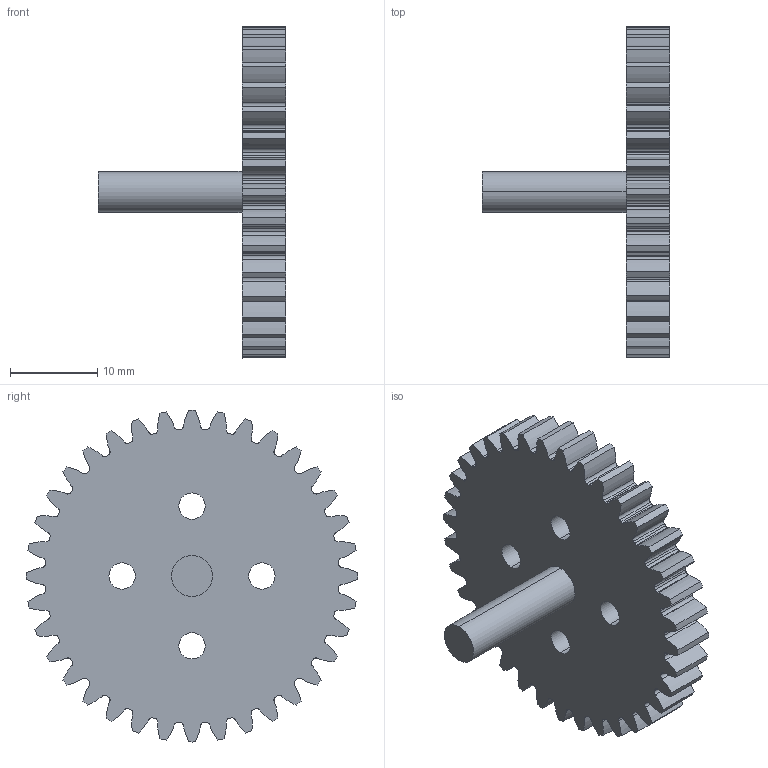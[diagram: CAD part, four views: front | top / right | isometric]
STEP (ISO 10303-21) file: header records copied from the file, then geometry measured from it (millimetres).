
FILE_DESCRIPTION (( 'STEP AP214' ), '1' );
FILE_NAME ('GEAR_36T.STEP', '2020-08-29T12:51:31', ( '' ), ( '' ), 'SwSTEP 2.0', 'SolidWorks 2020', '' );
FILE_SCHEMA (( 'AUTOMOTIVE_DESIGN' ));
Length unit declared in the file: millimetre
Products named in the file (1): GEAR_36T
Bounding box: 21.45 x 38 x 38 mm (x, y, z)
Volume: 5206.1 mm3; surface area: 3484.4 mm2
Topology: 1 solids, 1 shells, 246 faces, 729 edges, 486 vertices
Faces by surface type: cylinder 171, bspline 72, plane 3
Entity records: 10893 total; most frequent: CARTESIAN_POINT 4414, ORIENTED_EDGE 1458, DIRECTION 1277, EDGE_CURVE 729, AXIS2_PLACEMENT_3D 517, VERTEX_POINT 486, CIRCLE 342, EDGE_LOOP 255
